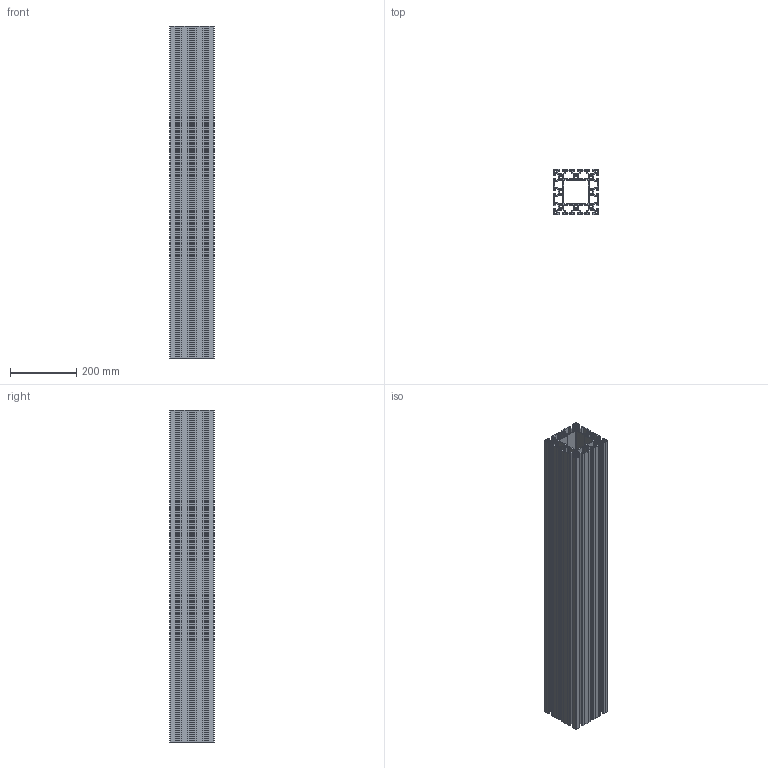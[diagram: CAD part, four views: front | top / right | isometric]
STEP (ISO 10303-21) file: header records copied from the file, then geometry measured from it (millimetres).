
FILE_DESCRIPTION (( 'STEP AP203' ), '1' );
FILE_NAME ('135x135.STEP', '2016-06-02T11:46:45', ( '' ), ( '' ), 'SwSTEP 2.0', 'SolidWorks 2016', '' );
FILE_SCHEMA (( 'CONFIG_CONTROL_DESIGN' ));
Length unit declared in the file: millimetre
Products named in the file (1): 135x135
Bounding box: 135 x 135 x 1000 mm (x, y, z)
Volume: 4451530.7 mm3; surface area: 2875459.8 mm2
Topology: 1 solids, 1 shells, 1342 faces, 4020 edges, 2680 vertices
Faces by surface type: plane 674, cylinder 668
Entity records: 45741 total; most frequent: CARTESIAN_POINT 8043, DIRECTION 8042, ORIENTED_EDGE 8040, EDGE_CURVE 4020, LINE 2684, VECTOR 2684, VERTEX_POINT 2680, AXIS2_PLACEMENT_3D 2679
